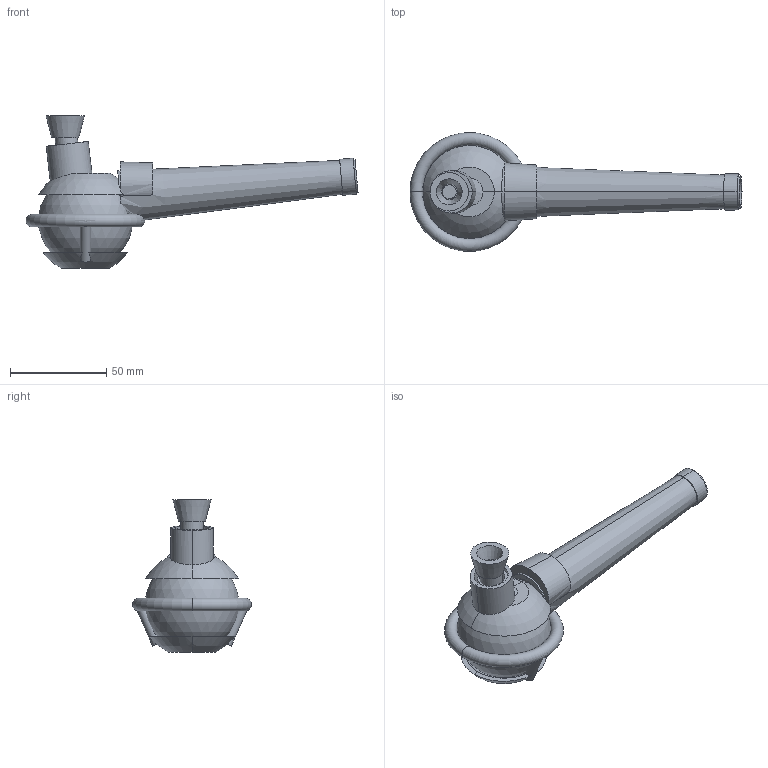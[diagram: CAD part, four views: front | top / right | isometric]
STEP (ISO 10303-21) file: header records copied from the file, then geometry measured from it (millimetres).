
FILE_DESCRIPTION(('Open CASCADE Model'),'2;1');
FILE_NAME('Open CASCADE Shape Model','2026-08-19T15:28:09',('Author'),( 'Open CASCADE'),'Open CASCADE STEP processor 7.9','Open CASCADE 7.9' ,'Unknown');
FILE_SCHEMA(('AUTOMOTIVE_DESIGN { 1 0 10303 214 1 1 1 1 }'));
Length unit declared in the file: millimetre
Products named in the file (10): Open CASCADE STEP translator 7.9 7; Open CASCADE STEP translator 7.9 7.1; Open CASCADE STEP translator 7.9 7.2; Open CASCADE STEP translator 7.9 7.3; Open CASCADE STEP translator 7.9 7.4; Open CASCADE STEP translator 7.9 7.5; Open CASCADE STEP translator 7.9 7.6; Open CASCADE STEP translator 7.9 7.6.1; Open CASCADE STEP translator 7.9 7.6.2; Open CASCADE STEP translator 7.9 7.6.3
Assembly tree (9 placements, depth 3):
  Open CASCADE STEP translator 7.9 7
    Open CASCADE STEP translator 7.9 7.1
    Open CASCADE STEP translator 7.9 7.2
    Open CASCADE STEP translator 7.9 7.3
    Open CASCADE STEP translator 7.9 7.4
    Open CASCADE STEP translator 7.9 7.5
    Open CASCADE STEP translator 7.9 7.6
      Open CASCADE STEP translator 7.9 7.6.1
      Open CASCADE STEP translator 7.9 7.6.2
      Open CASCADE STEP translator 7.9 7.6.3
Bounding box: 172.64 x 61.8 x 79.3 mm (x, y, z)
Volume: 71660.5 mm3; surface area: 63778.3 mm2
Topology: 8 solids, 8 shells, 161 faces, 442 edges, 293 vertices
Faces by surface type: plane 77, cylinder 36, sphere 19, cone 16, bspline 7, torus 6
Full cylindrical faces by diameter (mm): 2.9 x5, 4.4 x7, 5.4 x2, 7.4 x3, 11.6 x4, 12.5 x1, 13 x1, 15.8 x1, 16.4 x1, 19.3 x1
Entity records: 21172 total; most frequent: CARTESIAN_POINT 12852, DIRECTION 1361, ORIENTED_EDGE 880, PCURVE 880, DEFINITIONAL_REPRESENTATION 880, B_SPLINE_CURVE_WITH_KNOTS 488, EDGE_CURVE 440, LINE 413
